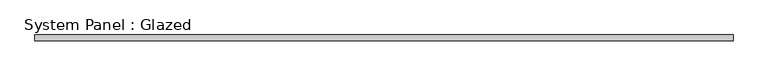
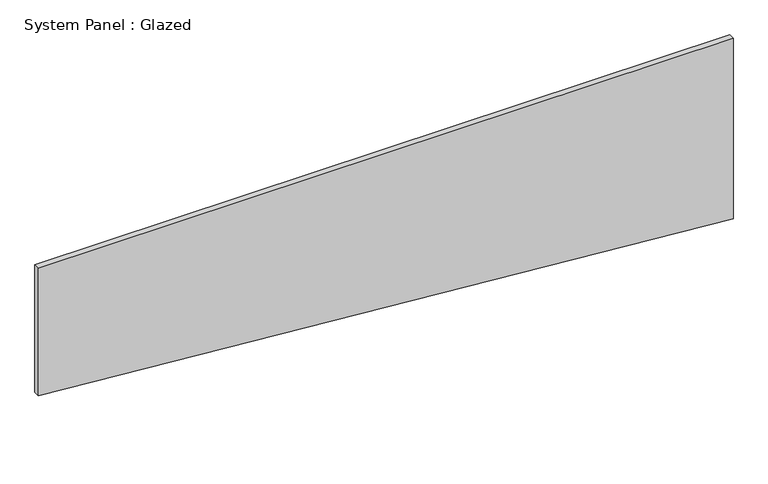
"""IFC4 building model written with IfcOpenShell, lengths in millimetres: plate geometry, System Panel : Glazed."""

from ifc_helpers import new_model, si_unit, frame, origin, place, context, project, spatial, polyline, outline, extrude, source, transform, mapped, element, save


def system_panel_glazed_bdf12241(model_context):
    return source(origin(), model_context, "Body", "SweptSolid", [
        extrude(outline(polyline([(242.7287249, -1504.95), (0.0, 1504.95), (825.6447226, 1504.95), (825.6447226, -1504.95), (242.7287249, -1504.95)])), frame((0.0, 19.05, 0.0), z_axis=(0.0, 1.0, 0.0), x_axis=(0.0, 0.0, 1.0)), (0.0, 0.0, 1.0), 25.4),
    ])


if __name__ == "__main__":
    model = new_model("IFC4")
    model_context = context("Model", 3, world=origin())
    ifc_project = project(units=[si_unit("LENGTHUNIT", "METRE", prefix="MILLI")], contexts=[model_context])
    site = spatial("IfcSite", under=ifc_project)
    building = spatial("IfcBuilding", under=site)
    placement = place(None, origin())
    system_panel_glazed_shape = system_panel_glazed_bdf12241(model_context)
    element("IfcPlate", 1, ObjectType="System Panel : Glazed", at=placement, inside=building, context=model_context, shape_type="MappedRepresentation", body=[
        mapped(system_panel_glazed_shape, transform((0.0, 0.0, 0.0), x_axis=(1.0, 0.0, 0.0), y_axis=(0.0, 1.0, 0.0), z_axis=(0.0, 0.0, 1.0))),
    ])
    save(model, "model.ifc")
